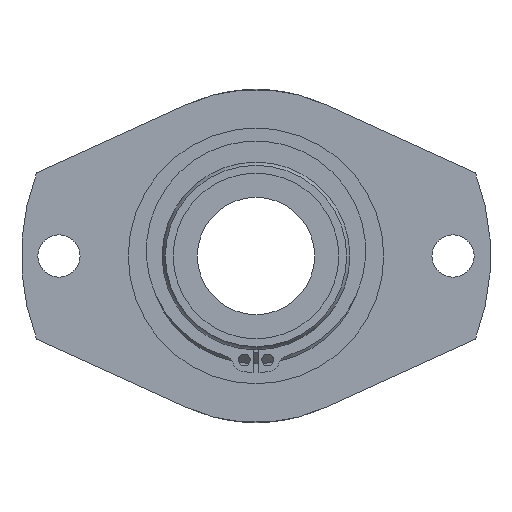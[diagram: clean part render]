
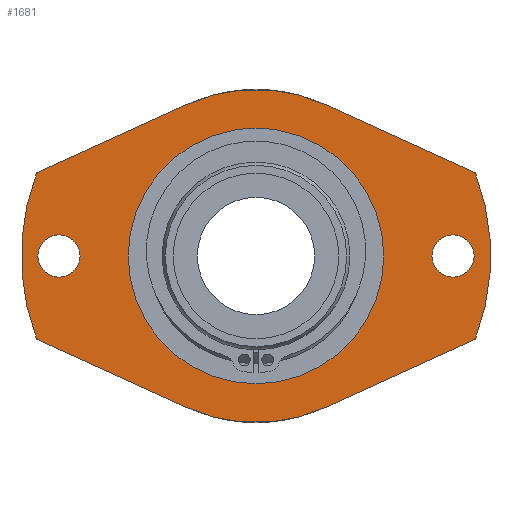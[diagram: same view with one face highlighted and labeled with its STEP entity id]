
A CAD part, left-side view. The second image highlights one B-rep face of the part: STEP entity #1681.
In plain terms, the highlighted planar face has unit normal (-1, 0, 0).
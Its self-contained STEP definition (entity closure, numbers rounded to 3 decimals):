
#1437=CARTESIAN_POINT('',(-10.0,-46.5,0.));
#1438=VERTEX_POINT('',#1437);
#1439=CARTESIAN_POINT('',(-10.0,-42.0,0.0));
#1440=DIRECTION('',(1.0,0.0,0.0));
#1441=DIRECTION('',(0.0,1.0,0.0));
#1442=AXIS2_PLACEMENT_3D('',#1439,#1440,#1441);
#1443=CIRCLE('',#1442,4.5);
#1444=EDGE_CURVE('',#1438,#1438,#1443,.T.);
#1486=CARTESIAN_POINT('',(-10.0,37.5,0.));
#1487=VERTEX_POINT('',#1486);
#1488=CARTESIAN_POINT('',(-10.0,42.0,0.0));
#1489=DIRECTION('',(1.0,0.0,0.0));
#1490=DIRECTION('',(0.0,1.0,0.0));
#1491=AXIS2_PLACEMENT_3D('',#1488,#1489,#1490);
#1492=CIRCLE('',#1491,4.5);
#1493=EDGE_CURVE('',#1487,#1487,#1492,.T.);
#1524=CARTESIAN_POINT('',(-10.0,14.722,-32.304));
#1525=VERTEX_POINT('',#1524);
#1532=CARTESIAN_POINT('',(-10.0,46.761,-17.702));
#1533=VERTEX_POINT('',#1532);
#1534=CARTESIAN_POINT('',(-10.0,14.722,-32.304));
#1535=DIRECTION('',(0.0,0.91,0.415));
#1536=VECTOR('',#1535,35.21);
#1537=LINE('',#1534,#1536);
#1538=EDGE_CURVE('',#1525,#1533,#1537,.T.);
#1564=CARTESIAN_POINT('',(-10.0,46.761,17.702));
#1565=VERTEX_POINT('',#1564);
#1566=CARTESIAN_POINT('',(-10.0,0.0,0.));
#1567=DIRECTION('',(1.0,0.0,0.0));
#1568=DIRECTION('',(0.0,1.0,0.0));
#1569=AXIS2_PLACEMENT_3D('',#1566,#1567,#1568);
#1570=CIRCLE('',#1569,50.0);
#1571=EDGE_CURVE('',#1533,#1565,#1570,.T.);
#1596=CARTESIAN_POINT('',(-10.0,14.722,32.304));
#1597=VERTEX_POINT('',#1596);
#1598=CARTESIAN_POINT('',(-10.0,46.761,17.702));
#1599=DIRECTION('',(0.0,-0.91,0.415));
#1600=VECTOR('',#1599,35.21);
#1601=LINE('',#1598,#1600);
#1602=EDGE_CURVE('',#1565,#1597,#1601,.T.);
#1613=CARTESIAN_POINT('',(-10.0,32.549,0.));
#1614=DIRECTION('',(1.0,0.0,0.0));
#1615=DIRECTION('',(0.0,0.0,-1.0));
#1616=AXIS2_PLACEMENT_3D('',#1613,#1614,#1615);
#1617=PLANE('',#1616);
#1618=ORIENTED_EDGE('',*,*,#1538,.F.);
#1619=CARTESIAN_POINT('',(-10.0,-14.722,-32.304));
#1620=VERTEX_POINT('',#1619);
#1621=CARTESIAN_POINT('',(-10.0,0.0,0.));
#1622=DIRECTION('',(1.0,0.0,0.0));
#1623=DIRECTION('',(0.0,1.0,0.0));
#1624=AXIS2_PLACEMENT_3D('',#1621,#1622,#1623);
#1625=CIRCLE('',#1624,35.5);
#1626=EDGE_CURVE('',#1620,#1525,#1625,.T.);
#1627=ORIENTED_EDGE('',*,*,#1626,.F.);
#1628=CARTESIAN_POINT('',(-10.0,-46.761,-17.702));
#1629=VERTEX_POINT('',#1628);
#1630=CARTESIAN_POINT('',(-10.0,-46.761,-17.702));
#1631=DIRECTION('',(0.0,0.91,-0.415));
#1632=VECTOR('',#1631,35.21);
#1633=LINE('',#1630,#1632);
#1634=EDGE_CURVE('',#1629,#1620,#1633,.T.);
#1635=ORIENTED_EDGE('',*,*,#1634,.F.);
#1636=CARTESIAN_POINT('',(-10.0,-46.761,17.702));
#1637=VERTEX_POINT('',#1636);
#1638=CARTESIAN_POINT('',(-10.0,0.0,0.));
#1639=DIRECTION('',(1.0,0.0,0.0));
#1640=DIRECTION('',(0.0,1.0,0.0));
#1641=AXIS2_PLACEMENT_3D('',#1638,#1639,#1640);
#1642=CIRCLE('',#1641,50.0);
#1643=EDGE_CURVE('',#1637,#1629,#1642,.T.);
#1644=ORIENTED_EDGE('',*,*,#1643,.F.);
#1645=CARTESIAN_POINT('',(-10.0,-14.722,32.304));
#1646=VERTEX_POINT('',#1645);
#1647=CARTESIAN_POINT('',(-10.0,-14.722,32.304));
#1648=DIRECTION('',(0.0,-0.91,-0.415));
#1649=VECTOR('',#1648,35.21);
#1650=LINE('',#1647,#1649);
#1651=EDGE_CURVE('',#1646,#1637,#1650,.T.);
#1652=ORIENTED_EDGE('',*,*,#1651,.F.);
#1653=CARTESIAN_POINT('',(-10.0,0.0,0.));
#1654=DIRECTION('',(1.0,0.0,0.0));
#1655=DIRECTION('',(0.0,1.0,0.0));
#1656=AXIS2_PLACEMENT_3D('',#1653,#1654,#1655);
#1657=CIRCLE('',#1656,35.5);
#1658=EDGE_CURVE('',#1597,#1646,#1657,.T.);
#1659=ORIENTED_EDGE('',*,*,#1658,.F.);
#1660=ORIENTED_EDGE('',*,*,#1602,.F.);
#1661=ORIENTED_EDGE('',*,*,#1571,.F.);
#1662=EDGE_LOOP('',(#1618,#1627,#1635,#1644,#1652,#1659,#1660,#1661));
#1663=FACE_OUTER_BOUND('',#1662,.T.);
#1664=ORIENTED_EDGE('',*,*,#1444,.T.);
#1665=EDGE_LOOP('',(#1664));
#1666=FACE_BOUND('',#1665,.T.);
#1667=ORIENTED_EDGE('',*,*,#1493,.T.);
#1668=EDGE_LOOP('',(#1667));
#1669=FACE_BOUND('',#1668,.T.);
#1670=CARTESIAN_POINT('',(-10.0,0.,27.221));
#1671=VERTEX_POINT('',#1670);
#1672=CARTESIAN_POINT('',(-10.0,0.0,0.0));
#1673=DIRECTION('',(1.0,0.0,0.0));
#1674=DIRECTION('',(0.0,0.0,-1.0));
#1675=AXIS2_PLACEMENT_3D('',#1672,#1673,#1674);
#1676=CIRCLE('',#1675,27.221);
#1677=EDGE_CURVE('',#1671,#1671,#1676,.T.);
#1678=ORIENTED_EDGE('',*,*,#1677,.T.);
#1679=EDGE_LOOP('',(#1678));
#1680=FACE_BOUND('',#1679,.T.);
#1681=ADVANCED_FACE('',(#1663,#1666,#1669,#1680),#1617,.F.);
